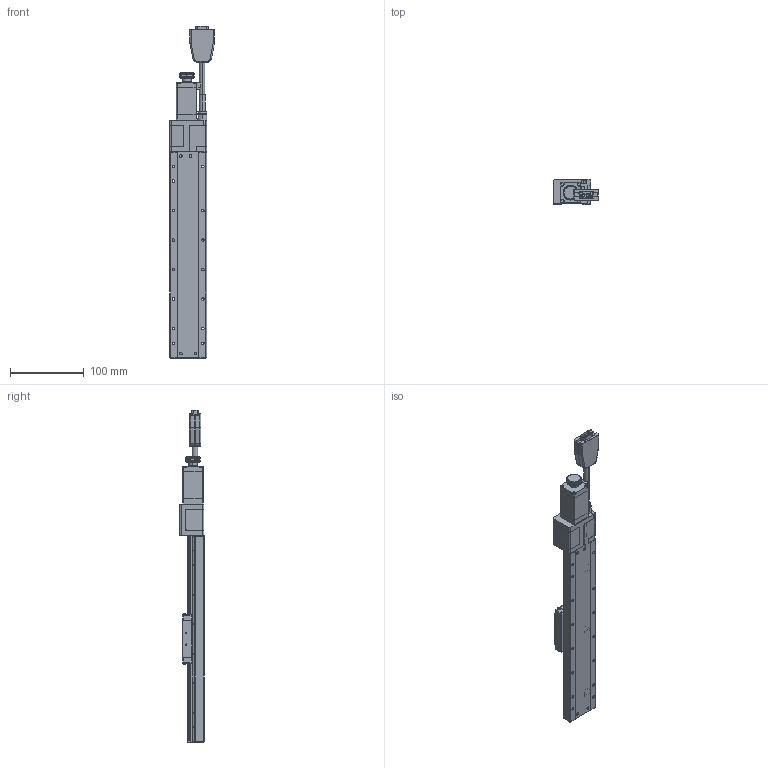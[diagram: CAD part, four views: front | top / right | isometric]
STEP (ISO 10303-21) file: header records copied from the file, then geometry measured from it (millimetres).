
FILE_DESCRIPTION (( 'STEP AP203' ), '1' );
FILE_NAME ('CXN50200.STEP', '2023-11-28T01:40:47', ( '' ), ( '' ), 'SwSTEP 2.0', 'SolidWorks 2019', '' );
FILE_SCHEMA (( 'CONFIG_CONTROL_DESIGN' ));
Length unit declared in the file: millimetre
Products named in the file (3): Group2^CXN50200-S2?N(2023新版)_defeature_GMT; Group1^CXN50200-S2?N(2023新版)_defeature_GMT; CXN50200
Assembly tree (2 placements, depth 2):
  CXN50200
    Group1^CXN50200-S2?N(2023新版)_defeature_GMT
    Group2^CXN50200-S2?N(2023新版)_defeature_GMT
Bounding box: 60.5 x 33.5 x 450.6 mm (x, y, z)
Volume: 31118 mm3; surface area: 122669.6 mm2
Topology: 3 solids, 7 shells, 3786 faces, 9854 edges, 6004 vertices
Faces by surface type: plane 1680, cylinder 1114, torus 385, bspline 288, sphere 161, cone 158
Full cylindrical faces by diameter (mm): 3.4 x1
Entity records: 126958 total; most frequent: CARTESIAN_POINT 36692, ORIENTED_EDGE 19296, DIRECTION 18493, EDGE_CURVE 9648, AXIS2_PLACEMENT_3D 6794, VERTEX_POINT 5971, VECTOR 4905, LINE 4905
